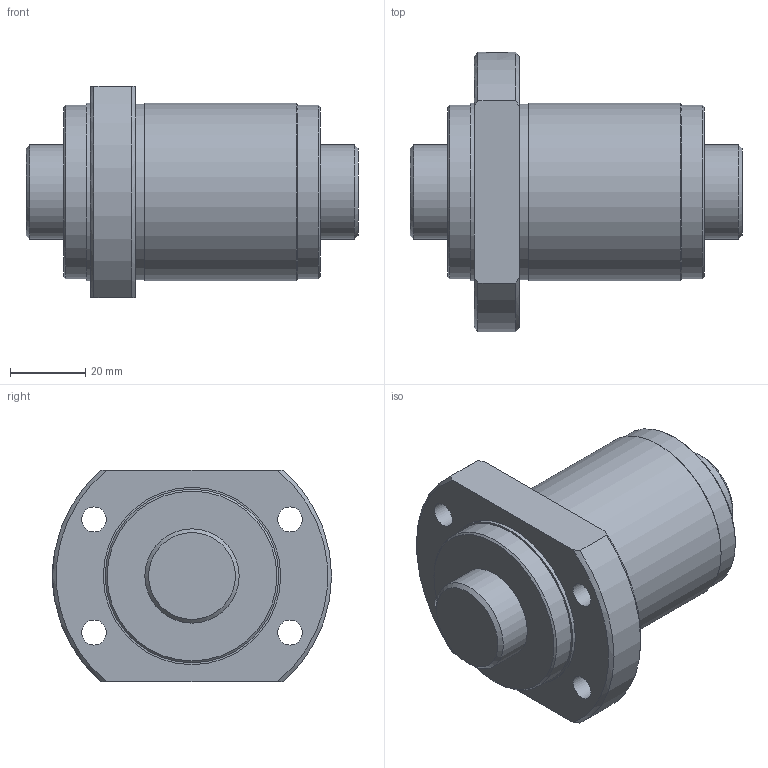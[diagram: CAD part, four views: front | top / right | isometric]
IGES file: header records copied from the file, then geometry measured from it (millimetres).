
Start section: Data from Parasolid IGES Translator 26.0.171, Copyright(c) 2006 Siemens PLM Software. All Rights Reserved.
Global section: file name: SBK2525-3.6RRG0+88LC0(0000).igs; native system: By Siemens PLM Incorporated; preprocessor: XPlus GENERIC/IGES 26.0.171; author: Noname; organization: Noname; date: 20240528.111955; units: millimetre
Bounding box: 88 x 74 x 56 mm (x, y, z)
Surface area: 31238.3 mm2 (no closed solid volume)
Topology: 0 solids, 0 shells, 36 faces, 161 edges, 133 vertices
Faces by surface type: revolution 25, extrusion 11
